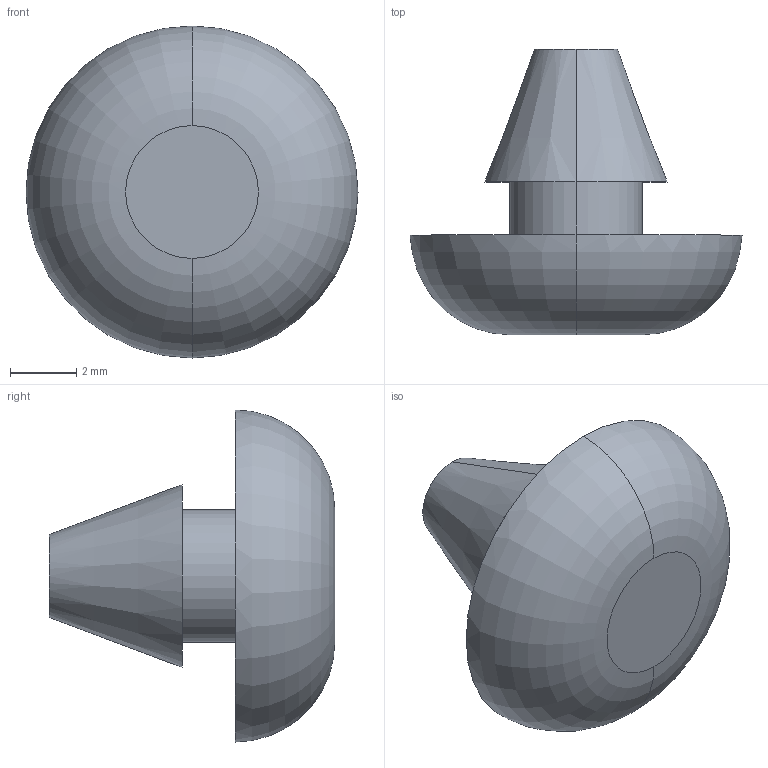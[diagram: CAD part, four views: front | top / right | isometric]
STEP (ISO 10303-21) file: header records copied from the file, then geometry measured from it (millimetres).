
FILE_DESCRIPTION (( 'STEP AP203' ), '1' );
FILE_NAME ('EBCS-7.STEP', '2013-07-19T12:01:22', ( 'SDS' ), ( 'SDS' ), 'SwSTEP 2.0', 'SolidWorks 2002296', '' );
FILE_SCHEMA (( 'CONFIG_CONTROL_DESIGN' ));
Length unit declared in the file: millimetre
Products named in the file (1): EBCS-7
Bounding box: 10 x 8.6 x 10 mm (x, y, z)
Volume: 241.6 mm3; surface area: 315.9 mm2
Topology: 1 solids, 1 shells, 13 faces, 24 edges, 16 vertices
Faces by surface type: plane 5, cylinder 4, cone 2, torus 2
Entity records: 413 total; most frequent: DIRECTION 70, CARTESIAN_POINT 54, ORIENTED_EDGE 48, AXIS2_PLACEMENT_3D 32, EDGE_CURVE 24, CIRCLE 18, EDGE_LOOP 16, VERTEX_POINT 16
